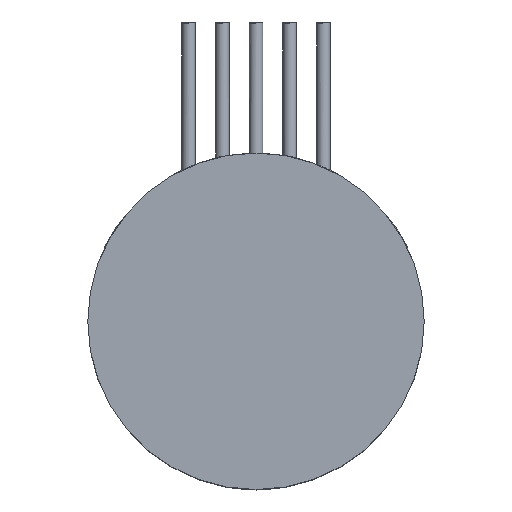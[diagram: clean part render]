
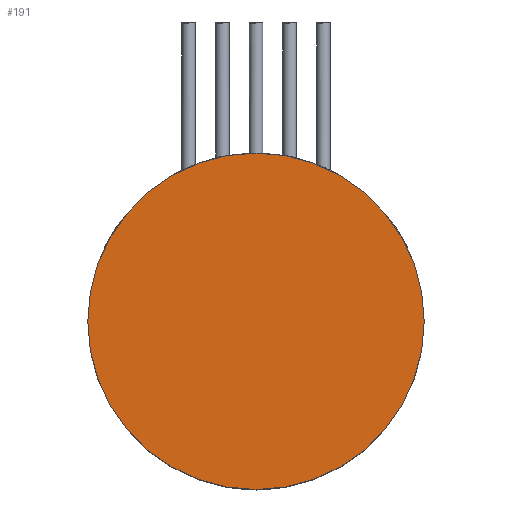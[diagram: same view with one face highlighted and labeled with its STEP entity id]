
A CAD part, top view. The second image highlights one B-rep face of the part: STEP entity #191.
In plain terms, the highlighted planar face has unit normal (0, 0, 1).
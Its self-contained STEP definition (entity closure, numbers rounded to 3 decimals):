
#191=ADVANCED_FACE('',(#391),#392,.F.);
#391=FACE_OUTER_BOUND('',#671,.T.);
#392=PLANE('',#672);
#671=EDGE_LOOP('',(#1005));
#672=AXIS2_PLACEMENT_3D('',#1006,#1007,#1008);
#1005=ORIENTED_EDGE('',*,*,#1518,.F.);
#1006=CARTESIAN_POINT('',(0.0,-4.463,8.25));
#1007=DIRECTION('',(0.0,0.0,-1.0));
#1008=DIRECTION('',(-1.0,0.0,0.0));
#1518=EDGE_CURVE('',#1748,#1748,#1749,.T.);
#1748=VERTEX_POINT('',#2119);
#1749=CIRCLE('',#2120,10.0);
#2119=CARTESIAN_POINT('',(10.,0.,8.25));
#2120=AXIS2_PLACEMENT_3D('',#2691,#2692,#2693);
#2691=CARTESIAN_POINT('',(0.,0.,8.25));
#2692=DIRECTION('',(0.,0.,-1.0));
#2693=DIRECTION('',(1.0,0.,0.));
